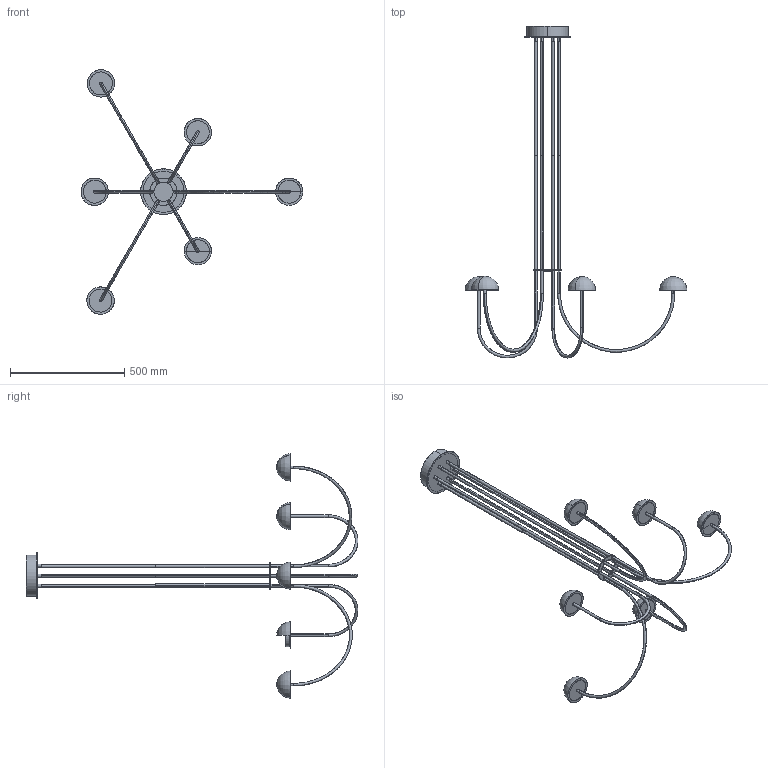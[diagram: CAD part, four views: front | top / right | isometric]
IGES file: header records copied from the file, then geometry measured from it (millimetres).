
Start section: SolidWorks IGES file using analytic representation for surfaces
Global section: file name: C:\Users\adrian\Desktop\MODELADOS USA\DUSSA\CU1307\DUSSA_CU1307-6.IGS; native system: SolidWorks 2023; preprocessor: SolidWorks 2023; author: adrian; date: 260605.092305; units: inch
Bounding box: 972 x 1454 x 1071.76 mm (x, y, z)
Surface area: 1001982.2 mm2 (no closed solid volume)
Topology: 0 solids, 0 shells, 247 faces, 6964 edges, 6958 vertices
Faces by surface type: revolution 152, bspline 95
